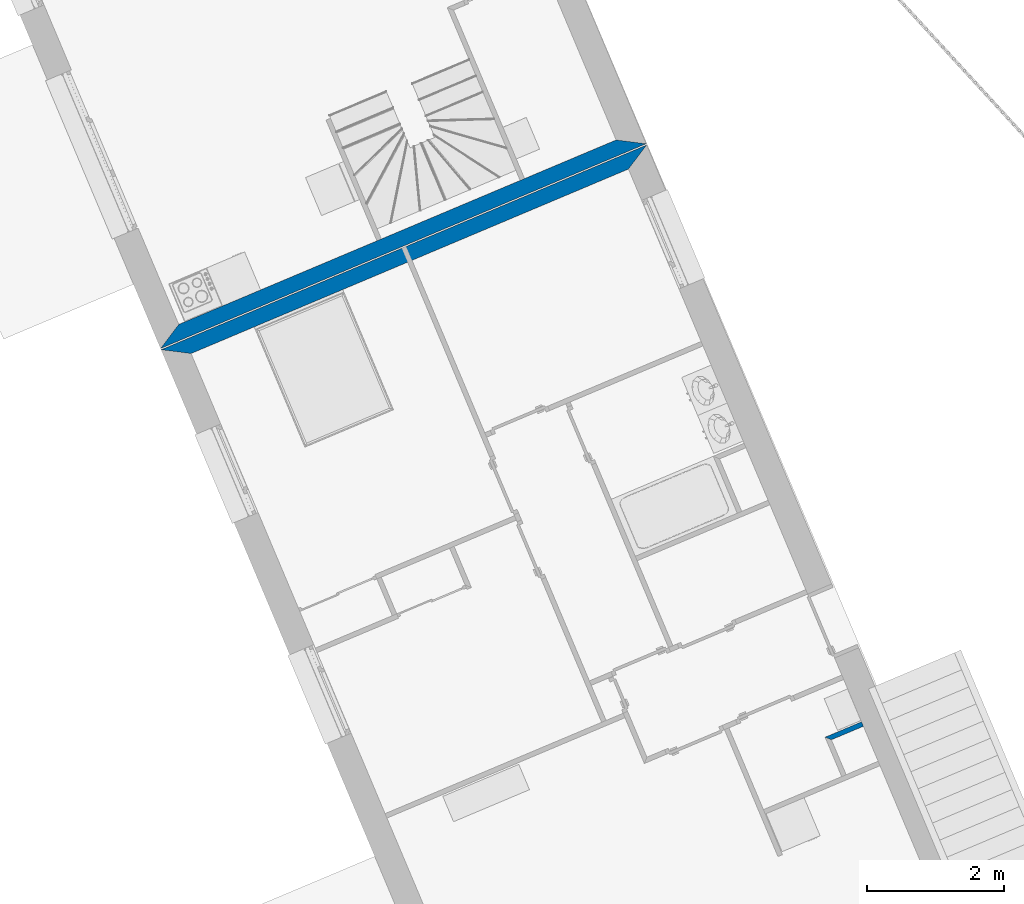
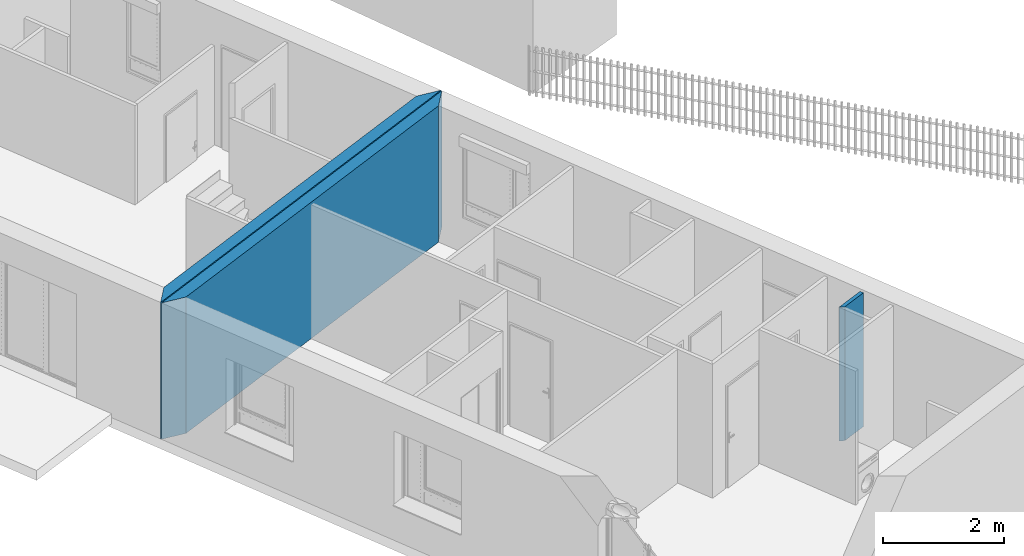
# One storey, part 56 of 195: 3 walls.
"""IFC2X3 building model written with IfcOpenShell, lengths in metres."""

from ifc_helpers import new_model, entity, si_unit, converted_unit, derived_unit, money_unit, direction, frame, origin_with_axes, place, context, subcontext, project, spatial, polyline, outline, extrude, material, layer, layer_set, layer_usage, type_object, element, save


model = new_model("IFC2X3")

# Units and contexts
model_context = context("Model", 3, precision=1e-05, world=origin_with_axes(), true_north=direction((0.0, 1.0)))
body_context = subcontext(model_context, "Body", "Model", "MODEL_VIEW")
ifc_project = project(units=[si_unit("LENGTHUNIT", "METRE"), si_unit("AREAUNIT", "SQUARE_METRE"), si_unit("VOLUMEUNIT", "CUBIC_METRE"), converted_unit("PLANEANGLEUNIT", "DEGREE", entity("IfcPlaneAngleMeasure", 0.0174532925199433), si_unit("PLANEANGLEUNIT", "RADIAN"), dimensions=[0, 0, 0, 0, 0, 0, 0]), money_unit("CHF"), converted_unit("TIMEUNIT", "Year", entity("IfcTimeMeasure", 31557600.0), si_unit("TIMEUNIT", "SECOND"), dimensions=[0, 0, 1, 0, 0, 0, 0]), si_unit("MASSUNIT", "GRAM", prefix="KILO"), si_unit("THERMODYNAMICTEMPERATUREUNIT", "DEGREE_CELSIUS"), si_unit("LUMINOUSINTENSITYUNIT", "LUMEN"), si_unit("ENERGYUNIT", "JOULE", prefix="MEGA"), derived_unit("THERMALCONDUCTANCEUNIT", [(si_unit("POWERUNIT", "WATT"), 1), (si_unit("LENGTHUNIT", "METRE"), -1), (si_unit("THERMODYNAMICTEMPERATUREUNIT", "KELVIN"), -1)]), derived_unit("SPECIFICHEATCAPACITYUNIT", [(si_unit("ENERGYUNIT", "JOULE"), 1), (si_unit("MASSUNIT", "GRAM", prefix="KILO"), -1), (si_unit("THERMODYNAMICTEMPERATUREUNIT", "KELVIN"), -1)]), derived_unit("MASSDENSITYUNIT", [(si_unit("MASSUNIT", "GRAM", prefix="KILO"), 1), (si_unit("VOLUMEUNIT", "CUBIC_METRE"), -1)])], contexts=[model_context])

# Site, building, storey
site_placement = place(None, origin_with_axes())
site = spatial("IfcSite", under=ifc_project, at=site_placement, Name="Site", CompositionType="ELEMENT")
building_placement = place(site_placement, origin_with_axes())
building = spatial("IfcBuilding", under=site, at=building_placement, Name="Bâtiment", CompositionType="ELEMENT")
storey_placement = place(building_placement, origin_with_axes())
storey = spatial("IfcBuildingStorey", under=building, at=storey_placement, Name="rdc", CompositionType="ELEMENT", Elevation=0.0)

# Walls
ifc_material_1 = material(Name="Hachure solide 268963992")
ifc_layer_1 = layer(ifc_material_1, 0.07, ventilated="UNKNOWN")
ifc_layer_set_1 = layer_set([ifc_layer_1], Name="Cloison 70 0826278243")
ifc_layer_usage_1 = layer_usage(ifc_layer_set_1, "AXIS2", "POSITIVE", 0.0)
wall_type_1 = type_object("IfcWallType", Name="Cloison 70 0826278243 70", PredefinedType="NOTDEFINED")
wall_1_placement = place(storey_placement, frame((9572.980093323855, -1051.041726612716, 57.7), z_axis=(0.0, 0.0, 1.0), x_axis=(0.9214094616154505, 0.3885931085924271, 0.0)))
element("IfcWallStandardCase", 1, at=wall_1_placement, inside=storey, type_object=wall_type_1, material=ifc_layer_usage_1, Name="Mur-149", context=body_context, shape_type="SweptSolid", body=[
    extrude(outline(polyline([(0.07000000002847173, 0.0), (0.5758829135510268, 0.0), (0.5758849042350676, 0.06999999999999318), (1.990771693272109e-06, 0.06999999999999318), (0.07000000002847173, 0.0)])), origin_with_axes(), (0.0, 0.0, 1.0), 2.7),
])
ifc_material_2 = material(Name="Parpaing 314940890")
ifc_layer_2 = layer(ifc_material_2, 0.22, ventilated="UNKNOWN")
ifc_layer_set_2 = layer_set([ifc_layer_2], Name="Beton  22 0836643197")
ifc_layer_usage_2 = layer_usage(ifc_layer_set_2, "AXIS2", "NEGATIVE", 0.0)
wall_type_2 = type_object("IfcWallType", Name="Beton  22 0836643197 220", PredefinedType="NOTDEFINED")
wall_2_placement = place(storey_placement, frame((9570.4407028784, -1042.559971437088, 57.7), z_axis=(0.0, 0.0, 1.0), x_axis=(-0.9214205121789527, -0.3885669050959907, 0.0)))
element("IfcWallStandardCase", 2, at=wall_2_placement, inside=storey, type_object=wall_type_2, material=ifc_layer_usage_2, Name="Mur-105", context=body_context, shape_type="SweptSolid", body=[
    extrude(outline(polyline([(0.0, -0.2200000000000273), (7.66991424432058, -0.2200000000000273), (7.28991424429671, 0.0), (0.3799999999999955, 0.0), (0.0, -0.2200000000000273)])), origin_with_axes(), (0.0, 0.0, 1.0), 2.750000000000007),
])
ifc_layer_usage_3 = layer_usage(ifc_layer_set_2, "AXIS2", "NEGATIVE", 0.0)
wall_3_placement = place(storey_placement, frame((9570.347446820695, -1042.33883051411, 57.7), z_axis=(0.0, 0.0, 1.0), x_axis=(-0.9214205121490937, -0.388566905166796, 0.0)))
element("IfcWallStandardCase", 3, at=wall_3_placement, inside=storey, type_object=wall_type_2, material=ifc_layer_usage_3, Name="Mur-105", context=body_context, shape_type="SweptSolid", body=[
    extrude(outline(polyline([(0.3799999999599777, -0.2199999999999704), (7.289914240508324, -0.2200000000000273), (7.669914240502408, 0.0), (0.0, 0.0), (0.3799999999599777, -0.2199999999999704)])), origin_with_axes(), (0.0, 0.0, 1.0), 2.750000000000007),
])

save(model, "model.ifc")
